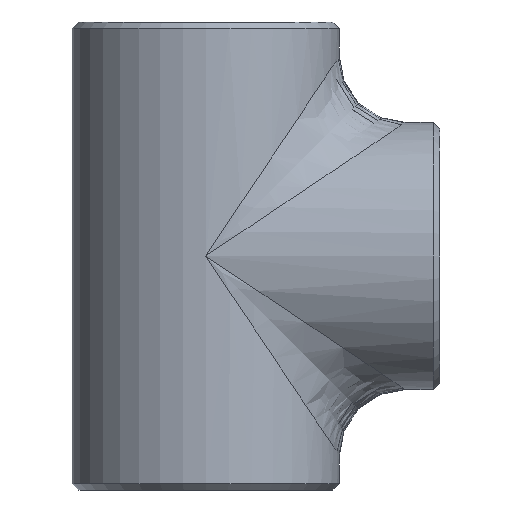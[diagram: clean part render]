
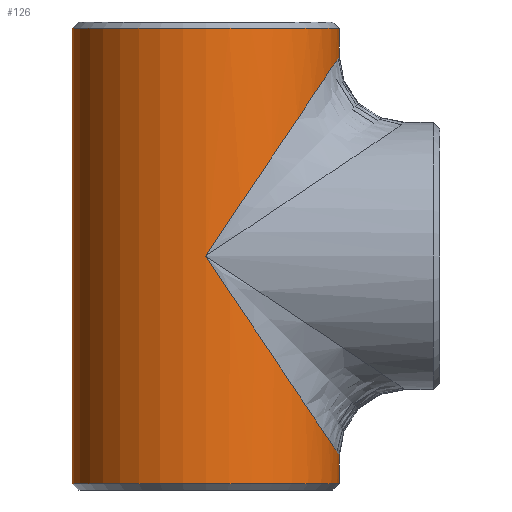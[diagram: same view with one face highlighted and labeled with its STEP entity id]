
A CAD part, front view. The second image highlights one B-rep face of the part: STEP entity #126.
In plain terms, the highlighted cylindrical face has radius 70.65 mm (diameter 141.3 mm), a partial arc.
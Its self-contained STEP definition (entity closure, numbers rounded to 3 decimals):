
#62 = ORIENTED_EDGE ( 'NONE', *, *, #881, .F. ) ;
#75 = ORIENTED_EDGE ( 'NONE', *, *, #365, .T. ) ;
#100 = CARTESIAN_POINT ( 'NONE',  ( 41.386, -70.65, 61.888 ) ) ;
#121 = VERTEX_POINT ( 'NONE', #780 ) ;
#126 = ADVANCED_FACE ( 'NONE', ( #1205 ), #143, .T. ) ;
#143 = CYLINDRICAL_SURFACE ( 'NONE', #191, 70.65 ) ;
#191 = AXIS2_PLACEMENT_3D ( 'NONE', #443, #904, #342 ) ;
#216 = DIRECTION ( 'NONE',  ( 0., 0., -1. ) ) ;
#268 = CARTESIAN_POINT ( 'NONE',  ( 70.65, 0., 105.65 ) ) ;
#274 = AXIS2_PLACEMENT_3D ( 'NONE', #742, #1053, #1178 ) ;
#298 = CARTESIAN_POINT ( 'NONE',  ( 70.65, 0., -120.45 ) ) ;
#304 = LINE ( 'NONE', #608, #339 ) ;
#316 = ORIENTED_EDGE ( 'NONE', *, *, #897, .T. ) ;
#339 = VECTOR ( 'NONE', #618, 1000. ) ;
#342 = DIRECTION ( 'NONE',  ( -1., 0., 0. ) ) ;
#365 = EDGE_CURVE ( 'NONE', #714, #717, #759, .T. ) ;
#380 = VECTOR ( 'NONE', #216, 1000. ) ;
#394 = ORIENTED_EDGE ( 'NONE', *, *, #591, .T. ) ;
#404 = CARTESIAN_POINT ( 'NONE',  ( 70.65, 0., 105.65 ) ) ;
#411 = VERTEX_POINT ( 'NONE', #1249 ) ;
#443 = CARTESIAN_POINT ( 'NONE',  ( 0., 0., 123.8 ) ) ;
#462 = LINE ( 'NONE', #1402, #380 ) ;
#496 = EDGE_LOOP ( 'NONE', ( #62, #316, #394, #75, #1381, #1151, #642 ) ) ;
#519 = CIRCLE ( 'NONE', #274, 70.65 ) ;
#581 = DIRECTION ( 'NONE',  ( 0., 0., 1. ) ) ;
#591 = EDGE_CURVE ( 'NONE', #1366, #714, #822, .T. ) ;
#597 = CARTESIAN_POINT ( 'NONE',  ( 0., 0., -120.45 ) ) ;
#608 = CARTESIAN_POINT ( 'NONE',  ( 70.65, 0., 123.8 ) ) ;
#618 = DIRECTION ( 'NONE',  ( 0., 0., -1. ) ) ;
#630 = DIRECTION ( 'NONE',  ( 0., 0., -1. ) ) ;
#642 = ORIENTED_EDGE ( 'NONE', *, *, #772, .T. ) ;
#659 = VERTEX_POINT ( 'NONE', #268 ) ;
#668 = EDGE_CURVE ( 'NONE', #1385, #411, #789, .T. ) ;
#680 = EDGE_CURVE ( 'NONE', #1385, #717, #462, .T. ) ;
#714 = VERTEX_POINT ( 'NONE', #1062 ) ;
#717 = VERTEX_POINT ( 'NONE', #298 ) ;
#729 = CARTESIAN_POINT ( 'NONE',  ( -70.65, 0., 123.8 ) ) ;
#742 = CARTESIAN_POINT ( 'NONE',  ( 0., 0., 120.45 ) ) ;
#759 = CIRCLE ( 'NONE', #1025, 70.65 ) ;
#772 = EDGE_CURVE ( 'NONE', #411, #659, #1342, .T. ) ;
#780 = CARTESIAN_POINT ( 'NONE',  ( 70.65, 0., 120.45 ) ) ;
#789 =( BOUNDED_CURVE ( )  B_SPLINE_CURVE ( 3, ( #1233, #905, #1340, #958 ),
 .UNSPECIFIED., .F., .F. ) 
 B_SPLINE_CURVE_WITH_KNOTS ( ( 4, 4 ),
 ( 3.142, 4.712 ),
 .UNSPECIFIED. ) 
 CURVE ( )  GEOMETRIC_REPRESENTATION_ITEM ( )  RATIONAL_B_SPLINE_CURVE ( ( 1., 0.805, 0.805, 1. ) ) 
 REPRESENTATION_ITEM ( '' )  );
#822 = LINE ( 'NONE', #729, #1141 ) ;
#881 = EDGE_CURVE ( 'NONE', #121, #659, #304, .T. ) ;
#897 = EDGE_CURVE ( 'NONE', #121, #1366, #519, .T. ) ;
#904 = DIRECTION ( 'NONE',  ( 0., 0., -1. ) ) ;
#905 = CARTESIAN_POINT ( 'NONE',  ( 70.65, -41.386, -105.65 ) ) ;
#917 = CARTESIAN_POINT ( 'NONE',  ( 70.65, 0., -105.65 ) ) ;
#958 = CARTESIAN_POINT ( 'NONE',  ( 0., -70.65, 0. ) ) ;
#1017 = CARTESIAN_POINT ( 'NONE',  ( -70.65, 0., 120.45 ) ) ;
#1025 = AXIS2_PLACEMENT_3D ( 'NONE', #597, #581, #1138 ) ;
#1053 = DIRECTION ( 'NONE',  ( 0., 0., -1. ) ) ;
#1062 = CARTESIAN_POINT ( 'NONE',  ( -70.65, 0., -120.45 ) ) ;
#1138 = DIRECTION ( 'NONE',  ( 1., 0., 0. ) ) ;
#1141 = VECTOR ( 'NONE', #630, 1000. ) ;
#1151 = ORIENTED_EDGE ( 'NONE', *, *, #668, .T. ) ;
#1178 = DIRECTION ( 'NONE',  ( 1., 0., 0. ) ) ;
#1205 = FACE_OUTER_BOUND ( 'NONE', #496, .T. ) ;
#1233 = CARTESIAN_POINT ( 'NONE',  ( 70.65, 0., -105.65 ) ) ;
#1249 = CARTESIAN_POINT ( 'NONE',  ( 0., -70.65, 0. ) ) ;
#1267 = CARTESIAN_POINT ( 'NONE',  ( 70.65, -41.386, 105.65 ) ) ;
#1340 = CARTESIAN_POINT ( 'NONE',  ( 41.386, -70.65, -61.888 ) ) ;
#1342 =( BOUNDED_CURVE ( )  B_SPLINE_CURVE ( 3, ( #1411, #100, #1267, #404 ),
 .UNSPECIFIED., .F., .F. ) 
 B_SPLINE_CURVE_WITH_KNOTS ( ( 4, 4 ),
 ( 1.571, 3.142 ),
 .UNSPECIFIED. ) 
 CURVE ( )  GEOMETRIC_REPRESENTATION_ITEM ( )  RATIONAL_B_SPLINE_CURVE ( ( 1., 0.805, 0.805, 1. ) ) 
 REPRESENTATION_ITEM ( '' )  );
#1366 = VERTEX_POINT ( 'NONE', #1017 ) ;
#1381 = ORIENTED_EDGE ( 'NONE', *, *, #680, .F. ) ;
#1385 = VERTEX_POINT ( 'NONE', #917 ) ;
#1402 = CARTESIAN_POINT ( 'NONE',  ( 70.65, 0., 123.8 ) ) ;
#1411 = CARTESIAN_POINT ( 'NONE',  ( 0., -70.65, 0. ) ) ;
